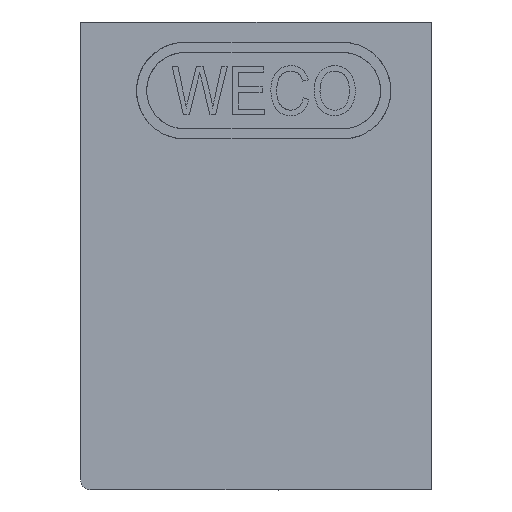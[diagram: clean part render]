
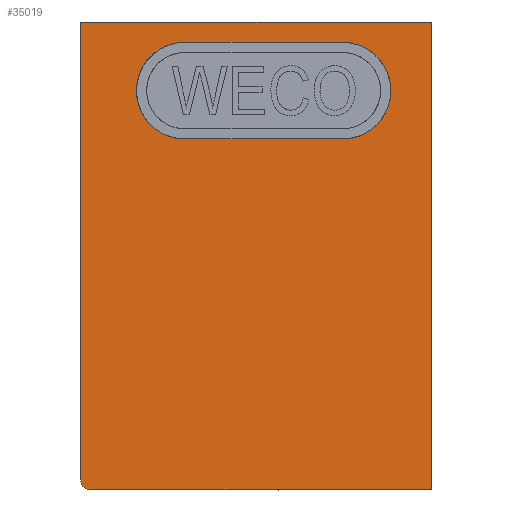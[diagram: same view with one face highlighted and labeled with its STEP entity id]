
A CAD part, left-side view. The second image highlights one B-rep face of the part: STEP entity #35019.
In plain terms, the highlighted planar face has unit normal (-1, 0, 0).
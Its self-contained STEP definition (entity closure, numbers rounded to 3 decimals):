
#742 =( BOUNDED_CURVE ( )  B_SPLINE_CURVE ( 3, ( #25701, #33620, #29342, #9688 ),
 .UNSPECIFIED., .F., .F. ) 
 B_SPLINE_CURVE_WITH_KNOTS ( ( 4, 4 ),
 ( 3.142, 6.283 ),
 .UNSPECIFIED. ) 
 CURVE ( )  GEOMETRIC_REPRESENTATION_ITEM ( )  RATIONAL_B_SPLINE_CURVE ( ( 1., 0.333, 0.333, 1. ) ) 
 REPRESENTATION_ITEM ( '' )  );
#744 = DIRECTION ( 'NONE',  ( 0., 1., 0. ) ) ;
#2563 = CARTESIAN_POINT ( 'NONE',  ( -0.7, 4.85, 8.8 ) ) ;
#3096 = CARTESIAN_POINT ( 'NONE',  ( -0.7, 0., 0. ) ) ;
#4102 = LINE ( 'NONE', #25954, #34101 ) ;
#4479 = LINE ( 'NONE', #27119, #19141 ) ;
#4480 = VERTEX_POINT ( 'NONE', #17866 ) ;
#4557 = CARTESIAN_POINT ( 'NONE',  ( -0.7, 6.7, 0. ) ) ;
#4723 = ORIENTED_EDGE ( 'NONE', *, *, #45407, .F. ) ;
#4950 = DIRECTION ( 'NONE',  ( 0., 0., 1. ) ) ;
#5154 = CARTESIAN_POINT ( 'NONE',  ( -0.7, 6.9, 0.2 ) ) ;
#5978 = VERTEX_POINT ( 'NONE', #38411 ) ;
#6598 = ORIENTED_EDGE ( 'NONE', *, *, #35028, .F. ) ;
#7532 = AXIS2_PLACEMENT_3D ( 'NONE', #3096, #38337, #37636 ) ;
#7847 = EDGE_CURVE ( 'NONE', #4480, #36330, #38129, .T. ) ;
#7970 = VERTEX_POINT ( 'NONE', #16349 ) ;
#8815 = DIRECTION ( 'NONE',  ( 0., -1., 0. ) ) ;
#9688 = CARTESIAN_POINT ( 'NONE',  ( -0.7, 1.75, 6.9 ) ) ;
#10283 = PLANE ( 'NONE',  #7532 ) ;
#10693 = EDGE_CURVE ( 'NONE', #45359, #5978, #35540, .T. ) ;
#12245 = ORIENTED_EDGE ( 'NONE', *, *, #31430, .T. ) ;
#13199 = LINE ( 'NONE', #48379, #43828 ) ;
#14081 = ORIENTED_EDGE ( 'NONE', *, *, #48086, .T. ) ;
#14180 = VERTEX_POINT ( 'NONE', #24151 ) ;
#15450 = EDGE_CURVE ( 'NONE', #23863, #45359, #742, .T. ) ;
#16131 = CARTESIAN_POINT ( 'NONE',  ( -0.7, 0., 6.9 ) ) ;
#16280 = DIRECTION ( 'NONE',  ( 0., -1., 0. ) ) ;
#16349 = CARTESIAN_POINT ( 'NONE',  ( -0.7, 0., 9.2 ) ) ;
#17866 = CARTESIAN_POINT ( 'NONE',  ( -0.7, 6.9, 9.2 ) ) ;
#18206 =( BOUNDED_CURVE ( )  B_SPLINE_CURVE ( 3, ( #38141, #41952, #26287, #2563 ),
 .UNSPECIFIED., .F., .F. ) 
 B_SPLINE_CURVE_WITH_KNOTS ( ( 4, 4 ),
 ( 0., 3.142 ),
 .UNSPECIFIED. ) 
 CURVE ( )  GEOMETRIC_REPRESENTATION_ITEM ( )  RATIONAL_B_SPLINE_CURVE ( ( 1., 0.333, 0.333, 1. ) ) 
 REPRESENTATION_ITEM ( '' )  );
#18794 = DIRECTION ( 'NONE',  ( 0., -1., 0. ) ) ;
#19141 = VECTOR ( 'NONE', #31230, 1000. ) ;
#22630 = FACE_OUTER_BOUND ( 'NONE', #37600, .T. ) ;
#23239 = EDGE_CURVE ( 'NONE', #5978, #14180, #18206, .T. ) ;
#23359 = DIRECTION ( 'NONE',  ( 0., 0., -1. ) ) ;
#23863 = VERTEX_POINT ( 'NONE', #35620 ) ;
#24007 = CARTESIAN_POINT ( 'NONE',  ( -0.7, 0., 0. ) ) ;
#24151 = CARTESIAN_POINT ( 'NONE',  ( -0.7, 4.85, 8.8 ) ) ;
#24164 = CIRCLE ( 'NONE', #40747, 0.2 ) ;
#25701 = CARTESIAN_POINT ( 'NONE',  ( -0.7, 1.75, 8.8 ) ) ;
#25954 = CARTESIAN_POINT ( 'NONE',  ( -0.7, 0., 9.2 ) ) ;
#26287 = CARTESIAN_POINT ( 'NONE',  ( -0.7, 6.75, 8.8 ) ) ;
#27119 = CARTESIAN_POINT ( 'NONE',  ( -0.7, 0., 0. ) ) ;
#27459 = CARTESIAN_POINT ( 'NONE',  ( -0.7, 6.9, 0. ) ) ;
#27595 = VECTOR ( 'NONE', #744, 1000. ) ;
#28404 = DIRECTION ( 'NONE',  ( -1., 0., 0. ) ) ;
#29342 = CARTESIAN_POINT ( 'NONE',  ( -0.7, -0.15, 6.9 ) ) ;
#30561 = ORIENTED_EDGE ( 'NONE', *, *, #36328, .T. ) ;
#31064 = CARTESIAN_POINT ( 'NONE',  ( -0.7, 1.75, 6.9 ) ) ;
#31230 = DIRECTION ( 'NONE',  ( 0., 0., -1. ) ) ;
#31430 = EDGE_CURVE ( 'NONE', #36330, #38693, #24164, .T. ) ;
#33056 = FACE_BOUND ( 'NONE', #49446, .T. ) ;
#33620 = CARTESIAN_POINT ( 'NONE',  ( -0.7, -0.15, 8.8 ) ) ;
#34101 = VECTOR ( 'NONE', #18794, 1000. ) ;
#34519 = ORIENTED_EDGE ( 'NONE', *, *, #15450, .T. ) ;
#35019 = ADVANCED_FACE ( 'NONE', ( #33056, #22630 ), #10283, .T. ) ;
#35028 = EDGE_CURVE ( 'NONE', #4480, #7970, #4102, .T. ) ;
#35540 = LINE ( 'NONE', #16131, #27595 ) ;
#35620 = CARTESIAN_POINT ( 'NONE',  ( -0.7, 1.75, 8.8 ) ) ;
#35968 = CARTESIAN_POINT ( 'NONE',  ( -0.7, 0., 0. ) ) ;
#36277 = VECTOR ( 'NONE', #23359, 1000. ) ;
#36328 = EDGE_CURVE ( 'NONE', #38693, #43655, #37413, .T. ) ;
#36330 = VERTEX_POINT ( 'NONE', #5154 ) ;
#37413 = LINE ( 'NONE', #35968, #44802 ) ;
#37600 = EDGE_LOOP ( 'NONE', ( #6598, #45914, #12245, #30561, #4723 ) ) ;
#37636 = DIRECTION ( 'NONE',  ( 0., 0., 1. ) ) ;
#37868 = ORIENTED_EDGE ( 'NONE', *, *, #10693, .T. ) ;
#38129 = LINE ( 'NONE', #27459, #36277 ) ;
#38141 = CARTESIAN_POINT ( 'NONE',  ( -0.7, 4.85, 6.9 ) ) ;
#38337 = DIRECTION ( 'NONE',  ( -1., 0., 0. ) ) ;
#38411 = CARTESIAN_POINT ( 'NONE',  ( -0.7, 4.85, 6.9 ) ) ;
#38693 = VERTEX_POINT ( 'NONE', #4557 ) ;
#40223 = CARTESIAN_POINT ( 'NONE',  ( -0.7, 6.7, 0.2 ) ) ;
#40747 = AXIS2_PLACEMENT_3D ( 'NONE', #40223, #28404, #4950 ) ;
#41952 = CARTESIAN_POINT ( 'NONE',  ( -0.7, 6.75, 6.9 ) ) ;
#42887 = ORIENTED_EDGE ( 'NONE', *, *, #23239, .T. ) ;
#43655 = VERTEX_POINT ( 'NONE', #24007 ) ;
#43828 = VECTOR ( 'NONE', #8815, 1000. ) ;
#44802 = VECTOR ( 'NONE', #16280, 1000. ) ;
#45359 = VERTEX_POINT ( 'NONE', #31064 ) ;
#45407 = EDGE_CURVE ( 'NONE', #7970, #43655, #4479, .T. ) ;
#45914 = ORIENTED_EDGE ( 'NONE', *, *, #7847, .T. ) ;
#48086 = EDGE_CURVE ( 'NONE', #14180, #23863, #13199, .T. ) ;
#48379 = CARTESIAN_POINT ( 'NONE',  ( -0.7, 0., 8.8 ) ) ;
#49446 = EDGE_LOOP ( 'NONE', ( #34519, #37868, #42887, #14081 ) ) ;
